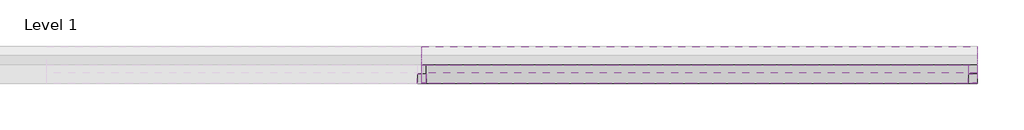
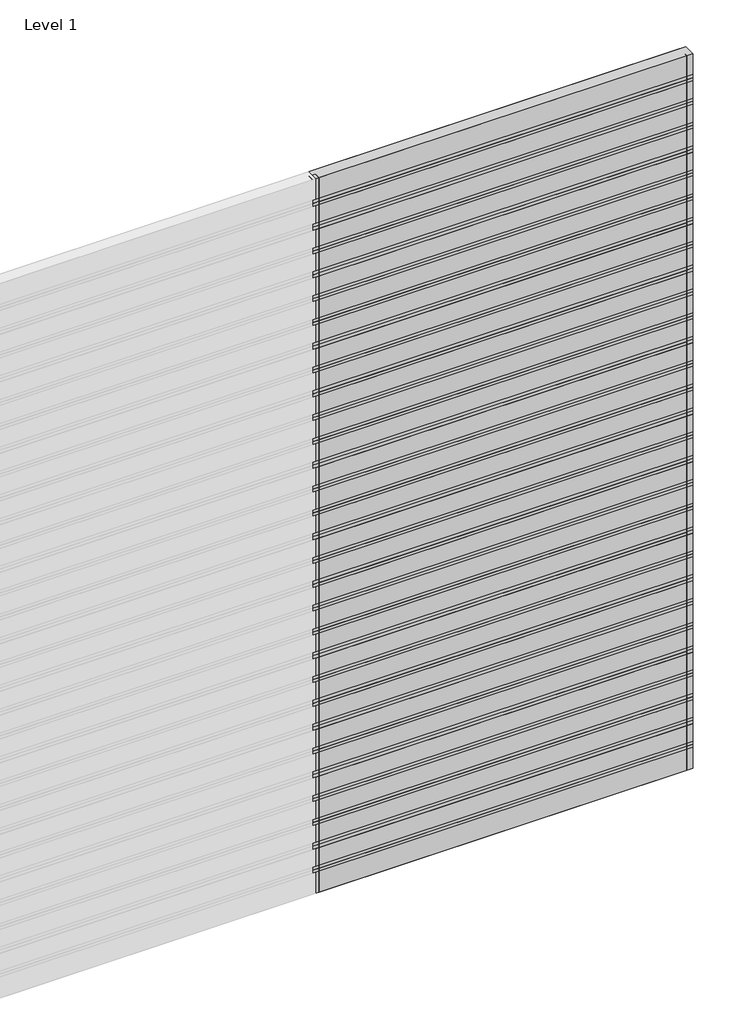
# One storey, part 2 of 2: 74 members, 60 plates.
"""IFC4 building model written with IfcOpenShell, lengths in millimetres."""

from ifc_helpers import new_model, si_unit, origin, place, context, project, spatial, transform, mapped, element, save
from components import rectangular_mullion_0c68277b, rectangular_mullion_7d91d70c, rectangular_mullion_614df7cf, empty_system_panel_empty_aee84036, empty_system_panel_empty_4cab923f, empty_system_panel_empty_34a2d59f

model = new_model("IFC4")

# Units and contexts
model_context = context("Model", 3, world=origin())
ifc_project = project(units=[si_unit("LENGTHUNIT", "METRE", prefix="MILLI")], contexts=[model_context])

# Site, building, storey
site = spatial("IfcSite", under=ifc_project)
building = spatial("IfcBuilding", under=site)
storey = spatial("IfcBuildingStorey", under=building, Name="Level 1", Elevation=0.0)

# Members
placement = place(None, origin())
rectangular_mullion_shape = rectangular_mullion_0c68277b(model_context)
element("IfcMember", 1, ObjectType="Rectangular Mullion : RSen_21_CWM_blade - 200 ellips - 45°_gen_duco projects", at=placement, inside=storey, context=model_context, shape_type="MappedRepresentation", body=[
    mapped(rectangular_mullion_shape, transform((3000.0, 3000.0, 3200.0), x_axis=(0.0, 0.0, 1.0), y_axis=(0.0, 1.0, 0.0), z_axis=(-1.0, 0.0, 0.0))),
])
element("IfcMember", 2, ObjectType="Rectangular Mullion : RSen_21_CWM_blade - 200 ellips - 45°_gen_duco projects", at=placement, inside=storey, context=model_context, shape_type="MappedRepresentation", body=[
    mapped(rectangular_mullion_shape, transform((3000.0, 3000.0, 3400.0), x_axis=(0.0, 0.0, 1.0), y_axis=(0.0, 1.0, 0.0), z_axis=(-1.0, 0.0, 0.0))),
])
element("IfcMember", 3, ObjectType="Rectangular Mullion : RSen_21_CWM_blade - 200 ellips - 45°_gen_duco projects", at=placement, inside=storey, context=model_context, shape_type="MappedRepresentation", body=[
    mapped(rectangular_mullion_shape, transform((3000.0, 3000.0, 3600.0), x_axis=(0.0, 0.0, 1.0), y_axis=(0.0, 1.0, 0.0), z_axis=(-1.0, 0.0, 0.0))),
])
element("IfcMember", 4, ObjectType="Rectangular Mullion : RSen_21_CWM_blade - 200 ellips - 45°_gen_duco projects", at=placement, inside=storey, context=model_context, shape_type="MappedRepresentation", body=[
    mapped(rectangular_mullion_shape, transform((3000.0, 3000.0, 3800.0), x_axis=(0.0, 0.0, 1.0), y_axis=(0.0, 1.0, 0.0), z_axis=(-1.0, 0.0, 0.0))),
])
element("IfcMember", 5, ObjectType="Rectangular Mullion : RSen_21_CWM_blade - 200 ellips - 45°_gen_duco projects", at=placement, inside=storey, context=model_context, shape_type="MappedRepresentation", body=[
    mapped(rectangular_mullion_shape, transform((3000.0, 3000.0, 4000.0), x_axis=(0.0, 0.0, 1.0), y_axis=(0.0, 1.0, 0.0), z_axis=(-1.0, 0.0, 0.0))),
])
element("IfcMember", 6, ObjectType="Rectangular Mullion : RSen_21_CWM_blade - 200 ellips - 45°_gen_duco projects", at=placement, inside=storey, context=model_context, shape_type="MappedRepresentation", body=[
    mapped(rectangular_mullion_shape, transform((3000.0, 3000.0, 4200.0), x_axis=(0.0, 0.0, 1.0), y_axis=(0.0, 1.0, 0.0), z_axis=(-1.0, 0.0, 0.0))),
])
element("IfcMember", 7, ObjectType="Rectangular Mullion : RSen_21_CWM_blade - 200 ellips - 45°_gen_duco projects", at=placement, inside=storey, context=model_context, shape_type="MappedRepresentation", body=[
    mapped(rectangular_mullion_shape, transform((3000.0, 3000.0, 4400.0), x_axis=(0.0, 0.0, 1.0), y_axis=(0.0, 1.0, 0.0), z_axis=(-1.0, 0.0, 0.0))),
])
element("IfcMember", 8, ObjectType="Rectangular Mullion : RSen_21_CWM_blade - 200 ellips - 45°_gen_duco projects", at=placement, inside=storey, context=model_context, shape_type="MappedRepresentation", body=[
    mapped(rectangular_mullion_shape, transform((3000.0, 3000.0, 4600.0), x_axis=(0.0, 0.0, 1.0), y_axis=(0.0, 1.0, 0.0), z_axis=(-1.0, 0.0, 0.0))),
])
element("IfcMember", 9, ObjectType="Rectangular Mullion : RSen_21_CWM_blade - 200 ellips - 45°_gen_duco projects", at=placement, inside=storey, context=model_context, shape_type="MappedRepresentation", body=[
    mapped(rectangular_mullion_shape, transform((3000.0, 3000.0, 4800.0), x_axis=(0.0, 0.0, 1.0), y_axis=(0.0, 1.0, 0.0), z_axis=(-1.0, 0.0, 0.0))),
])
element("IfcMember", 10, ObjectType="Rectangular Mullion : RSen_21_CWM_blade - 200 ellips - 45°_gen_duco projects", at=placement, inside=storey, context=model_context, shape_type="MappedRepresentation", body=[
    mapped(rectangular_mullion_shape, transform((3000.0, 3000.0, 5000.0), x_axis=(0.0, 0.0, 1.0), y_axis=(0.0, 1.0, 0.0), z_axis=(-1.0, 0.0, 0.0))),
])
element("IfcMember", 11, ObjectType="Rectangular Mullion : RSen_21_CWM_blade - 200 ellips - 45°_gen_duco projects", at=placement, inside=storey, context=model_context, shape_type="MappedRepresentation", body=[
    mapped(rectangular_mullion_shape, transform((3000.0, 3000.0, 5200.0), x_axis=(0.0, 0.0, 1.0), y_axis=(0.0, 1.0, 0.0), z_axis=(-1.0, 0.0, 0.0))),
])
element("IfcMember", 12, ObjectType="Rectangular Mullion : RSen_21_CWM_blade - 200 ellips - 45°_gen_duco projects", at=placement, inside=storey, context=model_context, shape_type="MappedRepresentation", body=[
    mapped(rectangular_mullion_shape, transform((3000.0, 3000.0, 5400.0), x_axis=(0.0, 0.0, 1.0), y_axis=(0.0, 1.0, 0.0), z_axis=(-1.0, 0.0, 0.0))),
])
element("IfcMember", 13, ObjectType="Rectangular Mullion : RSen_21_CWM_blade - 200 ellips - 45°_gen_duco projects", at=placement, inside=storey, context=model_context, shape_type="MappedRepresentation", body=[
    mapped(rectangular_mullion_shape, transform((3000.0, 3000.0, 5600.0), x_axis=(0.0, 0.0, 1.0), y_axis=(0.0, 1.0, 0.0), z_axis=(-1.0, 0.0, 0.0))),
])
element("IfcMember", 14, ObjectType="Rectangular Mullion : RSen_21_CWM_blade - 200 ellips - 45°_gen_duco projects", at=placement, inside=storey, context=model_context, shape_type="MappedRepresentation", body=[
    mapped(rectangular_mullion_shape, transform((3000.0, 3000.0, 5800.0), x_axis=(0.0, 0.0, 1.0), y_axis=(0.0, 1.0, 0.0), z_axis=(-1.0, 0.0, 0.0))),
])
rectangular_mullion_2_shape = rectangular_mullion_7d91d70c(model_context)
element("IfcMember", 15, ObjectType="Rectangular Mullion : RSen_21_CWM_support profile 50x50_gen_duco projects", at=placement, inside=storey, context=model_context, shape_type="MappedRepresentation", body=[
    mapped(rectangular_mullion_2_shape, transform((3000.0, 3000.0, 0.0), x_axis=(-1.0, 0.0, 0.0), y_axis=(0.0, 1.0, 0.0), z_axis=(0.0, 0.0, -1.0))),
])
element("IfcMember", 16, ObjectType="Rectangular Mullion : RSen_21_CWM_support profile 50x50_gen_duco projects", at=placement, inside=storey, context=model_context, shape_type="MappedRepresentation", body=[
    mapped(rectangular_mullion_2_shape, transform((3000.0, 3000.0, 200.0), x_axis=(-1.0, 0.0, 0.0), y_axis=(0.0, 1.0, 0.0), z_axis=(0.0, 0.0, -1.0))),
])
element("IfcMember", 17, ObjectType="Rectangular Mullion : RSen_21_CWM_support profile 50x50_gen_duco projects", at=placement, inside=storey, context=model_context, shape_type="MappedRepresentation", body=[
    mapped(rectangular_mullion_2_shape, transform((3000.0, 3000.0, 400.0), x_axis=(-1.0, 0.0, 0.0), y_axis=(0.0, 1.0, 0.0), z_axis=(0.0, 0.0, -1.0))),
])
element("IfcMember", 18, ObjectType="Rectangular Mullion : RSen_21_CWM_support profile 50x50_gen_duco projects", at=placement, inside=storey, context=model_context, shape_type="MappedRepresentation", body=[
    mapped(rectangular_mullion_2_shape, transform((3000.0, 3000.0, 600.0), x_axis=(-1.0, 0.0, 0.0), y_axis=(0.0, 1.0, 0.0), z_axis=(0.0, 0.0, -1.0))),
])
element("IfcMember", 19, ObjectType="Rectangular Mullion : RSen_21_CWM_support profile 50x50_gen_duco projects", at=placement, inside=storey, context=model_context, shape_type="MappedRepresentation", body=[
    mapped(rectangular_mullion_2_shape, transform((3000.0, 3000.0, 800.0), x_axis=(-1.0, 0.0, 0.0), y_axis=(0.0, 1.0, 0.0), z_axis=(0.0, 0.0, -1.0))),
])
element("IfcMember", 20, ObjectType="Rectangular Mullion : RSen_21_CWM_support profile 50x50_gen_duco projects", at=placement, inside=storey, context=model_context, shape_type="MappedRepresentation", body=[
    mapped(rectangular_mullion_2_shape, transform((3000.0, 3000.0, 1000.0), x_axis=(-1.0, 0.0, 0.0), y_axis=(0.0, 1.0, 0.0), z_axis=(0.0, 0.0, -1.0))),
])
element("IfcMember", 21, ObjectType="Rectangular Mullion : RSen_21_CWM_support profile 50x50_gen_duco projects", at=placement, inside=storey, context=model_context, shape_type="MappedRepresentation", body=[
    mapped(rectangular_mullion_2_shape, transform((3000.0, 3000.0, 1200.0), x_axis=(-1.0, 0.0, 0.0), y_axis=(0.0, 1.0, 0.0), z_axis=(0.0, 0.0, -1.0))),
])
element("IfcMember", 22, ObjectType="Rectangular Mullion : RSen_21_CWM_support profile 50x50_gen_duco projects", at=placement, inside=storey, context=model_context, shape_type="MappedRepresentation", body=[
    mapped(rectangular_mullion_2_shape, transform((3000.0, 3000.0, 1400.0), x_axis=(-1.0, 0.0, 0.0), y_axis=(0.0, 1.0, 0.0), z_axis=(0.0, 0.0, -1.0))),
])
element("IfcMember", 23, ObjectType="Rectangular Mullion : RSen_21_CWM_support profile 50x50_gen_duco projects", at=placement, inside=storey, context=model_context, shape_type="MappedRepresentation", body=[
    mapped(rectangular_mullion_2_shape, transform((3000.0, 3000.0, 1600.0), x_axis=(-1.0, 0.0, 0.0), y_axis=(0.0, 1.0, 0.0), z_axis=(0.0, 0.0, -1.0))),
])
element("IfcMember", 24, ObjectType="Rectangular Mullion : RSen_21_CWM_support profile 50x50_gen_duco projects", at=placement, inside=storey, context=model_context, shape_type="MappedRepresentation", body=[
    mapped(rectangular_mullion_2_shape, transform((3000.0, 3000.0, 1800.0), x_axis=(-1.0, 0.0, 0.0), y_axis=(0.0, 1.0, 0.0), z_axis=(0.0, 0.0, -1.0))),
])
element("IfcMember", 25, ObjectType="Rectangular Mullion : RSen_21_CWM_support profile 50x50_gen_duco projects", at=placement, inside=storey, context=model_context, shape_type="MappedRepresentation", body=[
    mapped(rectangular_mullion_2_shape, transform((3000.0, 3000.0, 2000.0), x_axis=(-1.0, 0.0, 0.0), y_axis=(0.0, 1.0, 0.0), z_axis=(0.0, 0.0, -1.0))),
])
element("IfcMember", 26, ObjectType="Rectangular Mullion : RSen_21_CWM_support profile 50x50_gen_duco projects", at=placement, inside=storey, context=model_context, shape_type="MappedRepresentation", body=[
    mapped(rectangular_mullion_2_shape, transform((3000.0, 3000.0, 2200.0), x_axis=(-1.0, 0.0, 0.0), y_axis=(0.0, 1.0, 0.0), z_axis=(0.0, 0.0, -1.0))),
])
element("IfcMember", 27, ObjectType="Rectangular Mullion : RSen_21_CWM_support profile 50x50_gen_duco projects", at=placement, inside=storey, context=model_context, shape_type="MappedRepresentation", body=[
    mapped(rectangular_mullion_2_shape, transform((3000.0, 3000.0, 2400.0), x_axis=(-1.0, 0.0, 0.0), y_axis=(0.0, 1.0, 0.0), z_axis=(0.0, 0.0, -1.0))),
])
element("IfcMember", 28, ObjectType="Rectangular Mullion : RSen_21_CWM_support profile 50x50_gen_duco projects", at=placement, inside=storey, context=model_context, shape_type="MappedRepresentation", body=[
    mapped(rectangular_mullion_2_shape, transform((3000.0, 3000.0, 2600.0), x_axis=(-1.0, 0.0, 0.0), y_axis=(0.0, 1.0, 0.0), z_axis=(0.0, 0.0, -1.0))),
])
element("IfcMember", 29, ObjectType="Rectangular Mullion : RSen_21_CWM_support profile 50x50_gen_duco projects", at=placement, inside=storey, context=model_context, shape_type="MappedRepresentation", body=[
    mapped(rectangular_mullion_2_shape, transform((3000.0, 3000.0, 2800.0), x_axis=(-1.0, 0.0, 0.0), y_axis=(0.0, 1.0, 0.0), z_axis=(0.0, 0.0, -1.0))),
])
element("IfcMember", 30, ObjectType="Rectangular Mullion : RSen_21_CWM_support profile 50x50_gen_duco projects", at=placement, inside=storey, context=model_context, shape_type="MappedRepresentation", body=[
    mapped(rectangular_mullion_2_shape, transform((3000.0, 3000.0, 3000.0), x_axis=(-1.0, 0.0, 0.0), y_axis=(0.0, 1.0, 0.0), z_axis=(0.0, 0.0, -1.0))),
])
element("IfcMember", 31, ObjectType="Rectangular Mullion : RSen_21_CWM_support profile 50x50_gen_duco projects", at=placement, inside=storey, context=model_context, shape_type="MappedRepresentation", body=[
    mapped(rectangular_mullion_2_shape, transform((3000.0, 3000.0, 3200.0), x_axis=(-1.0, 0.0, 0.0), y_axis=(0.0, 1.0, 0.0), z_axis=(0.0, 0.0, -1.0))),
])
element("IfcMember", 32, ObjectType="Rectangular Mullion : RSen_21_CWM_support profile 50x50_gen_duco projects", at=placement, inside=storey, context=model_context, shape_type="MappedRepresentation", body=[
    mapped(rectangular_mullion_2_shape, transform((3000.0, 3000.0, 3400.0), x_axis=(-1.0, 0.0, 0.0), y_axis=(0.0, 1.0, 0.0), z_axis=(0.0, 0.0, -1.0))),
])
element("IfcMember", 33, ObjectType="Rectangular Mullion : RSen_21_CWM_support profile 50x50_gen_duco projects", at=placement, inside=storey, context=model_context, shape_type="MappedRepresentation", body=[
    mapped(rectangular_mullion_2_shape, transform((3000.0, 3000.0, 3600.0), x_axis=(-1.0, 0.0, 0.0), y_axis=(0.0, 1.0, 0.0), z_axis=(0.0, 0.0, -1.0))),
])
element("IfcMember", 34, ObjectType="Rectangular Mullion : RSen_21_CWM_support profile 50x50_gen_duco projects", at=placement, inside=storey, context=model_context, shape_type="MappedRepresentation", body=[
    mapped(rectangular_mullion_2_shape, transform((3000.0, 3000.0, 3800.0), x_axis=(-1.0, 0.0, 0.0), y_axis=(0.0, 1.0, 0.0), z_axis=(0.0, 0.0, -1.0))),
])
element("IfcMember", 35, ObjectType="Rectangular Mullion : RSen_21_CWM_support profile 50x50_gen_duco projects", at=placement, inside=storey, context=model_context, shape_type="MappedRepresentation", body=[
    mapped(rectangular_mullion_2_shape, transform((3000.0, 3000.0, 4000.0), x_axis=(-1.0, 0.0, 0.0), y_axis=(0.0, 1.0, 0.0), z_axis=(0.0, 0.0, -1.0))),
])
element("IfcMember", 36, ObjectType="Rectangular Mullion : RSen_21_CWM_support profile 50x50_gen_duco projects", at=placement, inside=storey, context=model_context, shape_type="MappedRepresentation", body=[
    mapped(rectangular_mullion_2_shape, transform((3000.0, 3000.0, 4200.0), x_axis=(-1.0, 0.0, 0.0), y_axis=(0.0, 1.0, 0.0), z_axis=(0.0, 0.0, -1.0))),
])
element("IfcMember", 37, ObjectType="Rectangular Mullion : RSen_21_CWM_support profile 50x50_gen_duco projects", at=placement, inside=storey, context=model_context, shape_type="MappedRepresentation", body=[
    mapped(rectangular_mullion_2_shape, transform((3000.0, 3000.0, 4400.0), x_axis=(-1.0, 0.0, 0.0), y_axis=(0.0, 1.0, 0.0), z_axis=(0.0, 0.0, -1.0))),
])
element("IfcMember", 38, ObjectType="Rectangular Mullion : RSen_21_CWM_support profile 50x50_gen_duco projects", at=placement, inside=storey, context=model_context, shape_type="MappedRepresentation", body=[
    mapped(rectangular_mullion_2_shape, transform((3000.0, 3000.0, 4600.0), x_axis=(-1.0, 0.0, 0.0), y_axis=(0.0, 1.0, 0.0), z_axis=(0.0, 0.0, -1.0))),
])
element("IfcMember", 39, ObjectType="Rectangular Mullion : RSen_21_CWM_support profile 50x50_gen_duco projects", at=placement, inside=storey, context=model_context, shape_type="MappedRepresentation", body=[
    mapped(rectangular_mullion_2_shape, transform((3000.0, 3000.0, 4800.0), x_axis=(-1.0, 0.0, 0.0), y_axis=(0.0, 1.0, 0.0), z_axis=(0.0, 0.0, -1.0))),
])
element("IfcMember", 40, ObjectType="Rectangular Mullion : RSen_21_CWM_support profile 50x50_gen_duco projects", at=placement, inside=storey, context=model_context, shape_type="MappedRepresentation", body=[
    mapped(rectangular_mullion_2_shape, transform((3000.0, 3000.0, 5000.0), x_axis=(-1.0, 0.0, 0.0), y_axis=(0.0, 1.0, 0.0), z_axis=(0.0, 0.0, -1.0))),
])
element("IfcMember", 41, ObjectType="Rectangular Mullion : RSen_21_CWM_support profile 50x50_gen_duco projects", at=placement, inside=storey, context=model_context, shape_type="MappedRepresentation", body=[
    mapped(rectangular_mullion_2_shape, transform((3000.0, 3000.0, 5200.0), x_axis=(-1.0, 0.0, 0.0), y_axis=(0.0, 1.0, 0.0), z_axis=(0.0, 0.0, -1.0))),
])
element("IfcMember", 42, ObjectType="Rectangular Mullion : RSen_21_CWM_support profile 50x50_gen_duco projects", at=placement, inside=storey, context=model_context, shape_type="MappedRepresentation", body=[
    mapped(rectangular_mullion_2_shape, transform((3000.0, 3000.0, 5400.0), x_axis=(-1.0, 0.0, 0.0), y_axis=(0.0, 1.0, 0.0), z_axis=(0.0, 0.0, -1.0))),
])
element("IfcMember", 43, ObjectType="Rectangular Mullion : RSen_21_CWM_support profile 50x50_gen_duco projects", at=placement, inside=storey, context=model_context, shape_type="MappedRepresentation", body=[
    mapped(rectangular_mullion_2_shape, transform((3000.0, 3000.0, 5600.0), x_axis=(-1.0, 0.0, 0.0), y_axis=(0.0, 1.0, 0.0), z_axis=(0.0, 0.0, -1.0))),
])
element("IfcMember", 44, ObjectType="Rectangular Mullion : RSen_21_CWM_support profile 50x50_gen_duco projects", at=placement, inside=storey, context=model_context, shape_type="MappedRepresentation", body=[
    mapped(rectangular_mullion_2_shape, transform((3000.0, 3000.0, 5800.0), x_axis=(-1.0, 0.0, 0.0), y_axis=(0.0, 1.0, 0.0), z_axis=(0.0, 0.0, -1.0))),
])
rectangular_mullion_3_shape = rectangular_mullion_614df7cf(model_context)
element("IfcMember", 45, ObjectType="Rectangular Mullion : RSen_21_CWM_support profile 50x50 - right_gen_duco projects", at=placement, inside=storey, context=model_context, shape_type="MappedRepresentation", body=[
    mapped(rectangular_mullion_3_shape, transform((6000.0, 3000.0, 6000.0), x_axis=(1.0, 0.0, 0.0), y_axis=(0.0, 1.0, 0.0), z_axis=(0.0, 0.0, 1.0))),
])
element("IfcMember", 46, ObjectType="Rectangular Mullion : RSen_21_CWM_support profile 50x50 - right_gen_duco projects", at=placement, inside=storey, context=model_context, shape_type="MappedRepresentation", body=[
    mapped(rectangular_mullion_3_shape, transform((6000.0, 3000.0, 200.0), x_axis=(1.0, 0.0, 0.0), y_axis=(0.0, 1.0, 0.0), z_axis=(0.0, 0.0, 1.0))),
])
element("IfcMember", 47, ObjectType="Rectangular Mullion : RSen_21_CWM_support profile 50x50 - right_gen_duco projects", at=placement, inside=storey, context=model_context, shape_type="MappedRepresentation", body=[
    mapped(rectangular_mullion_3_shape, transform((6000.0, 3000.0, 400.0), x_axis=(1.0, 0.0, 0.0), y_axis=(0.0, 1.0, 0.0), z_axis=(0.0, 0.0, 1.0))),
])
element("IfcMember", 48, ObjectType="Rectangular Mullion : RSen_21_CWM_support profile 50x50 - right_gen_duco projects", at=placement, inside=storey, context=model_context, shape_type="MappedRepresentation", body=[
    mapped(rectangular_mullion_3_shape, transform((6000.0, 3000.0, 600.0), x_axis=(1.0, 0.0, 0.0), y_axis=(0.0, 1.0, 0.0), z_axis=(0.0, 0.0, 1.0))),
])
element("IfcMember", 49, ObjectType="Rectangular Mullion : RSen_21_CWM_support profile 50x50 - right_gen_duco projects", at=placement, inside=storey, context=model_context, shape_type="MappedRepresentation", body=[
    mapped(rectangular_mullion_3_shape, transform((6000.0, 3000.0, 800.0), x_axis=(1.0, 0.0, 0.0), y_axis=(0.0, 1.0, 0.0), z_axis=(0.0, 0.0, 1.0))),
])
element("IfcMember", 50, ObjectType="Rectangular Mullion : RSen_21_CWM_support profile 50x50 - right_gen_duco projects", at=placement, inside=storey, context=model_context, shape_type="MappedRepresentation", body=[
    mapped(rectangular_mullion_3_shape, transform((6000.0, 3000.0, 1000.0), x_axis=(1.0, 0.0, 0.0), y_axis=(0.0, 1.0, 0.0), z_axis=(0.0, 0.0, 1.0))),
])
element("IfcMember", 51, ObjectType="Rectangular Mullion : RSen_21_CWM_support profile 50x50 - right_gen_duco projects", at=placement, inside=storey, context=model_context, shape_type="MappedRepresentation", body=[
    mapped(rectangular_mullion_3_shape, transform((6000.0, 3000.0, 1200.0), x_axis=(1.0, 0.0, 0.0), y_axis=(0.0, 1.0, 0.0), z_axis=(0.0, 0.0, 1.0))),
])
element("IfcMember", 52, ObjectType="Rectangular Mullion : RSen_21_CWM_support profile 50x50 - right_gen_duco projects", at=placement, inside=storey, context=model_context, shape_type="MappedRepresentation", body=[
    mapped(rectangular_mullion_3_shape, transform((6000.0, 3000.0, 1400.0), x_axis=(1.0, 0.0, 0.0), y_axis=(0.0, 1.0, 0.0), z_axis=(0.0, 0.0, 1.0))),
])
element("IfcMember", 53, ObjectType="Rectangular Mullion : RSen_21_CWM_support profile 50x50 - right_gen_duco projects", at=placement, inside=storey, context=model_context, shape_type="MappedRepresentation", body=[
    mapped(rectangular_mullion_3_shape, transform((6000.0, 3000.0, 1600.0), x_axis=(1.0, 0.0, 0.0), y_axis=(0.0, 1.0, 0.0), z_axis=(0.0, 0.0, 1.0))),
])
element("IfcMember", 54, ObjectType="Rectangular Mullion : RSen_21_CWM_support profile 50x50 - right_gen_duco projects", at=placement, inside=storey, context=model_context, shape_type="MappedRepresentation", body=[
    mapped(rectangular_mullion_3_shape, transform((6000.0, 3000.0, 1800.0), x_axis=(1.0, 0.0, 0.0), y_axis=(0.0, 1.0, 0.0), z_axis=(0.0, 0.0, 1.0))),
])
element("IfcMember", 55, ObjectType="Rectangular Mullion : RSen_21_CWM_support profile 50x50 - right_gen_duco projects", at=placement, inside=storey, context=model_context, shape_type="MappedRepresentation", body=[
    mapped(rectangular_mullion_3_shape, transform((6000.0, 3000.0, 2000.0), x_axis=(1.0, 0.0, 0.0), y_axis=(0.0, 1.0, 0.0), z_axis=(0.0, 0.0, 1.0))),
])
element("IfcMember", 56, ObjectType="Rectangular Mullion : RSen_21_CWM_support profile 50x50 - right_gen_duco projects", at=placement, inside=storey, context=model_context, shape_type="MappedRepresentation", body=[
    mapped(rectangular_mullion_3_shape, transform((6000.0, 3000.0, 2200.0), x_axis=(1.0, 0.0, 0.0), y_axis=(0.0, 1.0, 0.0), z_axis=(0.0, 0.0, 1.0))),
])
element("IfcMember", 57, ObjectType="Rectangular Mullion : RSen_21_CWM_support profile 50x50 - right_gen_duco projects", at=placement, inside=storey, context=model_context, shape_type="MappedRepresentation", body=[
    mapped(rectangular_mullion_3_shape, transform((6000.0, 3000.0, 2400.0), x_axis=(1.0, 0.0, 0.0), y_axis=(0.0, 1.0, 0.0), z_axis=(0.0, 0.0, 1.0))),
])
element("IfcMember", 58, ObjectType="Rectangular Mullion : RSen_21_CWM_support profile 50x50 - right_gen_duco projects", at=placement, inside=storey, context=model_context, shape_type="MappedRepresentation", body=[
    mapped(rectangular_mullion_3_shape, transform((6000.0, 3000.0, 2600.0), x_axis=(1.0, 0.0, 0.0), y_axis=(0.0, 1.0, 0.0), z_axis=(0.0, 0.0, 1.0))),
])
element("IfcMember", 59, ObjectType="Rectangular Mullion : RSen_21_CWM_support profile 50x50 - right_gen_duco projects", at=placement, inside=storey, context=model_context, shape_type="MappedRepresentation", body=[
    mapped(rectangular_mullion_3_shape, transform((6000.0, 3000.0, 2800.0), x_axis=(1.0, 0.0, 0.0), y_axis=(0.0, 1.0, 0.0), z_axis=(0.0, 0.0, 1.0))),
])
element("IfcMember", 60, ObjectType="Rectangular Mullion : RSen_21_CWM_support profile 50x50 - right_gen_duco projects", at=placement, inside=storey, context=model_context, shape_type="MappedRepresentation", body=[
    mapped(rectangular_mullion_3_shape, transform((6000.0, 3000.0, 3000.0), x_axis=(1.0, 0.0, 0.0), y_axis=(0.0, 1.0, 0.0), z_axis=(0.0, 0.0, 1.0))),
])
element("IfcMember", 61, ObjectType="Rectangular Mullion : RSen_21_CWM_support profile 50x50 - right_gen_duco projects", at=placement, inside=storey, context=model_context, shape_type="MappedRepresentation", body=[
    mapped(rectangular_mullion_3_shape, transform((6000.0, 3000.0, 3200.0), x_axis=(1.0, 0.0, 0.0), y_axis=(0.0, 1.0, 0.0), z_axis=(0.0, 0.0, 1.0))),
])
element("IfcMember", 62, ObjectType="Rectangular Mullion : RSen_21_CWM_support profile 50x50 - right_gen_duco projects", at=placement, inside=storey, context=model_context, shape_type="MappedRepresentation", body=[
    mapped(rectangular_mullion_3_shape, transform((6000.0, 3000.0, 3400.0), x_axis=(1.0, 0.0, 0.0), y_axis=(0.0, 1.0, 0.0), z_axis=(0.0, 0.0, 1.0))),
])
element("IfcMember", 63, ObjectType="Rectangular Mullion : RSen_21_CWM_support profile 50x50 - right_gen_duco projects", at=placement, inside=storey, context=model_context, shape_type="MappedRepresentation", body=[
    mapped(rectangular_mullion_3_shape, transform((6000.0, 3000.0, 3600.0), x_axis=(1.0, 0.0, 0.0), y_axis=(0.0, 1.0, 0.0), z_axis=(0.0, 0.0, 1.0))),
])
element("IfcMember", 64, ObjectType="Rectangular Mullion : RSen_21_CWM_support profile 50x50 - right_gen_duco projects", at=placement, inside=storey, context=model_context, shape_type="MappedRepresentation", body=[
    mapped(rectangular_mullion_3_shape, transform((6000.0, 3000.0, 3800.0), x_axis=(1.0, 0.0, 0.0), y_axis=(0.0, 1.0, 0.0), z_axis=(0.0, 0.0, 1.0))),
])
element("IfcMember", 65, ObjectType="Rectangular Mullion : RSen_21_CWM_support profile 50x50 - right_gen_duco projects", at=placement, inside=storey, context=model_context, shape_type="MappedRepresentation", body=[
    mapped(rectangular_mullion_3_shape, transform((6000.0, 3000.0, 4000.0), x_axis=(1.0, 0.0, 0.0), y_axis=(0.0, 1.0, 0.0), z_axis=(0.0, 0.0, 1.0))),
])
element("IfcMember", 66, ObjectType="Rectangular Mullion : RSen_21_CWM_support profile 50x50 - right_gen_duco projects", at=placement, inside=storey, context=model_context, shape_type="MappedRepresentation", body=[
    mapped(rectangular_mullion_3_shape, transform((6000.0, 3000.0, 4200.0), x_axis=(1.0, 0.0, 0.0), y_axis=(0.0, 1.0, 0.0), z_axis=(0.0, 0.0, 1.0))),
])
element("IfcMember", 67, ObjectType="Rectangular Mullion : RSen_21_CWM_support profile 50x50 - right_gen_duco projects", at=placement, inside=storey, context=model_context, shape_type="MappedRepresentation", body=[
    mapped(rectangular_mullion_3_shape, transform((6000.0, 3000.0, 4400.0), x_axis=(1.0, 0.0, 0.0), y_axis=(0.0, 1.0, 0.0), z_axis=(0.0, 0.0, 1.0))),
])
element("IfcMember", 68, ObjectType="Rectangular Mullion : RSen_21_CWM_support profile 50x50 - right_gen_duco projects", at=placement, inside=storey, context=model_context, shape_type="MappedRepresentation", body=[
    mapped(rectangular_mullion_3_shape, transform((6000.0, 3000.0, 4600.0), x_axis=(1.0, 0.0, 0.0), y_axis=(0.0, 1.0, 0.0), z_axis=(0.0, 0.0, 1.0))),
])
element("IfcMember", 69, ObjectType="Rectangular Mullion : RSen_21_CWM_support profile 50x50 - right_gen_duco projects", at=placement, inside=storey, context=model_context, shape_type="MappedRepresentation", body=[
    mapped(rectangular_mullion_3_shape, transform((6000.0, 3000.0, 4800.0), x_axis=(1.0, 0.0, 0.0), y_axis=(0.0, 1.0, 0.0), z_axis=(0.0, 0.0, 1.0))),
])
element("IfcMember", 70, ObjectType="Rectangular Mullion : RSen_21_CWM_support profile 50x50 - right_gen_duco projects", at=placement, inside=storey, context=model_context, shape_type="MappedRepresentation", body=[
    mapped(rectangular_mullion_3_shape, transform((6000.0, 3000.0, 5000.0), x_axis=(1.0, 0.0, 0.0), y_axis=(0.0, 1.0, 0.0), z_axis=(0.0, 0.0, 1.0))),
])
element("IfcMember", 71, ObjectType="Rectangular Mullion : RSen_21_CWM_support profile 50x50 - right_gen_duco projects", at=placement, inside=storey, context=model_context, shape_type="MappedRepresentation", body=[
    mapped(rectangular_mullion_3_shape, transform((6000.0, 3000.0, 5200.0), x_axis=(1.0, 0.0, 0.0), y_axis=(0.0, 1.0, 0.0), z_axis=(0.0, 0.0, 1.0))),
])
element("IfcMember", 72, ObjectType="Rectangular Mullion : RSen_21_CWM_support profile 50x50 - right_gen_duco projects", at=placement, inside=storey, context=model_context, shape_type="MappedRepresentation", body=[
    mapped(rectangular_mullion_3_shape, transform((6000.0, 3000.0, 5400.0), x_axis=(1.0, 0.0, 0.0), y_axis=(0.0, 1.0, 0.0), z_axis=(0.0, 0.0, 1.0))),
])
element("IfcMember", 73, ObjectType="Rectangular Mullion : RSen_21_CWM_support profile 50x50 - right_gen_duco projects", at=placement, inside=storey, context=model_context, shape_type="MappedRepresentation", body=[
    mapped(rectangular_mullion_3_shape, transform((6000.0, 3000.0, 5600.0), x_axis=(1.0, 0.0, 0.0), y_axis=(0.0, 1.0, 0.0), z_axis=(0.0, 0.0, 1.0))),
])
element("IfcMember", 74, ObjectType="Rectangular Mullion : RSen_21_CWM_support profile 50x50 - right_gen_duco projects", at=placement, inside=storey, context=model_context, shape_type="MappedRepresentation", body=[
    mapped(rectangular_mullion_3_shape, transform((6000.0, 3000.0, 5800.0), x_axis=(1.0, 0.0, 0.0), y_axis=(0.0, 1.0, 0.0), z_axis=(0.0, 0.0, 1.0))),
])

# Plates
empty_system_panel_empty_shape = empty_system_panel_empty_aee84036(model_context)
element("IfcPlate", 75, ObjectType="Empty System Panel : Empty", at=placement, inside=storey, context=model_context, shape_type="MappedRepresentation", body=[
    mapped(empty_system_panel_empty_shape, transform((4500.0, 3000.0, 0.0), x_axis=(-1.0, 0.0, 0.0), y_axis=(0.0, -1.0, 0.0), z_axis=(0.0, 0.0, 1.0))),
])
element("IfcPlate", 76, ObjectType="Empty System Panel : Empty", at=placement, inside=storey, context=model_context, shape_type="MappedRepresentation", body=[
    mapped(empty_system_panel_empty_shape, transform((4500.0, 3000.0, 5826.1629509), x_axis=(-1.0, 0.0, 0.0), y_axis=(0.0, -1.0, 0.0), z_axis=(0.0, 0.0, 1.0))),
])
empty_system_panel_empty_2_shape = empty_system_panel_empty_4cab923f(model_context)
element("IfcPlate", 77, ObjectType="Empty System Panel : Empty", at=placement, inside=storey, context=model_context, shape_type="MappedRepresentation", body=[
    mapped(empty_system_panel_empty_2_shape, transform((4500.0, 3000.0, 226.1629509), x_axis=(-1.0, 0.0, 0.0), y_axis=(0.0, -1.0, 0.0), z_axis=(0.0, 0.0, 1.0))),
])
element("IfcPlate", 78, ObjectType="Empty System Panel : Empty", at=placement, inside=storey, context=model_context, shape_type="MappedRepresentation", body=[
    mapped(empty_system_panel_empty_2_shape, transform((4500.0, 3000.0, 426.1629509), x_axis=(-1.0, 0.0, 0.0), y_axis=(0.0, -1.0, 0.0), z_axis=(0.0, 0.0, 1.0))),
])
element("IfcPlate", 79, ObjectType="Empty System Panel : Empty", at=placement, inside=storey, context=model_context, shape_type="MappedRepresentation", body=[
    mapped(empty_system_panel_empty_2_shape, transform((4500.0, 3000.0, 626.1629509), x_axis=(-1.0, 0.0, 0.0), y_axis=(0.0, -1.0, 0.0), z_axis=(0.0, 0.0, 1.0))),
])
element("IfcPlate", 80, ObjectType="Empty System Panel : Empty", at=placement, inside=storey, context=model_context, shape_type="MappedRepresentation", body=[
    mapped(empty_system_panel_empty_2_shape, transform((4500.0, 3000.0, 826.1629509), x_axis=(-1.0, 0.0, 0.0), y_axis=(0.0, -1.0, 0.0), z_axis=(0.0, 0.0, 1.0))),
])
element("IfcPlate", 81, ObjectType="Empty System Panel : Empty", at=placement, inside=storey, context=model_context, shape_type="MappedRepresentation", body=[
    mapped(empty_system_panel_empty_2_shape, transform((4500.0, 3000.0, 1026.1629509), x_axis=(-1.0, 0.0, 0.0), y_axis=(0.0, -1.0, 0.0), z_axis=(0.0, 0.0, 1.0))),
])
element("IfcPlate", 82, ObjectType="Empty System Panel : Empty", at=placement, inside=storey, context=model_context, shape_type="MappedRepresentation", body=[
    mapped(empty_system_panel_empty_2_shape, transform((4500.0, 3000.0, 1226.1629509), x_axis=(-1.0, 0.0, 0.0), y_axis=(0.0, -1.0, 0.0), z_axis=(0.0, 0.0, 1.0))),
])
element("IfcPlate", 83, ObjectType="Empty System Panel : Empty", at=placement, inside=storey, context=model_context, shape_type="MappedRepresentation", body=[
    mapped(empty_system_panel_empty_2_shape, transform((4500.0, 3000.0, 1426.1629509), x_axis=(-1.0, 0.0, 0.0), y_axis=(0.0, -1.0, 0.0), z_axis=(0.0, 0.0, 1.0))),
])
element("IfcPlate", 84, ObjectType="Empty System Panel : Empty", at=placement, inside=storey, context=model_context, shape_type="MappedRepresentation", body=[
    mapped(empty_system_panel_empty_2_shape, transform((4500.0, 3000.0, 1626.1629509), x_axis=(-1.0, 0.0, 0.0), y_axis=(0.0, -1.0, 0.0), z_axis=(0.0, 0.0, 1.0))),
])
element("IfcPlate", 85, ObjectType="Empty System Panel : Empty", at=placement, inside=storey, context=model_context, shape_type="MappedRepresentation", body=[
    mapped(empty_system_panel_empty_2_shape, transform((4500.0, 3000.0, 1826.1629509), x_axis=(-1.0, 0.0, 0.0), y_axis=(0.0, -1.0, 0.0), z_axis=(0.0, 0.0, 1.0))),
])
element("IfcPlate", 86, ObjectType="Empty System Panel : Empty", at=placement, inside=storey, context=model_context, shape_type="MappedRepresentation", body=[
    mapped(empty_system_panel_empty_2_shape, transform((4500.0, 3000.0, 2026.1629509), x_axis=(-1.0, 0.0, 0.0), y_axis=(0.0, -1.0, 0.0), z_axis=(0.0, 0.0, 1.0))),
])
element("IfcPlate", 87, ObjectType="Empty System Panel : Empty", at=placement, inside=storey, context=model_context, shape_type="MappedRepresentation", body=[
    mapped(empty_system_panel_empty_2_shape, transform((4500.0, 3000.0, 2226.1629509), x_axis=(-1.0, 0.0, 0.0), y_axis=(0.0, -1.0, 0.0), z_axis=(0.0, 0.0, 1.0))),
])
element("IfcPlate", 88, ObjectType="Empty System Panel : Empty", at=placement, inside=storey, context=model_context, shape_type="MappedRepresentation", body=[
    mapped(empty_system_panel_empty_2_shape, transform((4500.0, 3000.0, 2426.1629509), x_axis=(-1.0, 0.0, 0.0), y_axis=(0.0, -1.0, 0.0), z_axis=(0.0, 0.0, 1.0))),
])
element("IfcPlate", 89, ObjectType="Empty System Panel : Empty", at=placement, inside=storey, context=model_context, shape_type="MappedRepresentation", body=[
    mapped(empty_system_panel_empty_2_shape, transform((4500.0, 3000.0, 2626.1629509), x_axis=(-1.0, 0.0, 0.0), y_axis=(0.0, -1.0, 0.0), z_axis=(0.0, 0.0, 1.0))),
])
element("IfcPlate", 90, ObjectType="Empty System Panel : Empty", at=placement, inside=storey, context=model_context, shape_type="MappedRepresentation", body=[
    mapped(empty_system_panel_empty_2_shape, transform((4500.0, 3000.0, 2826.1629509), x_axis=(-1.0, 0.0, 0.0), y_axis=(0.0, -1.0, 0.0), z_axis=(0.0, 0.0, 1.0))),
])
element("IfcPlate", 91, ObjectType="Empty System Panel : Empty", at=placement, inside=storey, context=model_context, shape_type="MappedRepresentation", body=[
    mapped(empty_system_panel_empty_2_shape, transform((4500.0, 3000.0, 3026.1629509), x_axis=(-1.0, 0.0, 0.0), y_axis=(0.0, -1.0, 0.0), z_axis=(0.0, 0.0, 1.0))),
])
element("IfcPlate", 92, ObjectType="Empty System Panel : Empty", at=placement, inside=storey, context=model_context, shape_type="MappedRepresentation", body=[
    mapped(empty_system_panel_empty_2_shape, transform((4500.0, 3000.0, 3226.1629509), x_axis=(-1.0, 0.0, 0.0), y_axis=(0.0, -1.0, 0.0), z_axis=(0.0, 0.0, 1.0))),
])
element("IfcPlate", 93, ObjectType="Empty System Panel : Empty", at=placement, inside=storey, context=model_context, shape_type="MappedRepresentation", body=[
    mapped(empty_system_panel_empty_2_shape, transform((4500.0, 3000.0, 3426.1629509), x_axis=(-1.0, 0.0, 0.0), y_axis=(0.0, -1.0, 0.0), z_axis=(0.0, 0.0, 1.0))),
])
element("IfcPlate", 94, ObjectType="Empty System Panel : Empty", at=placement, inside=storey, context=model_context, shape_type="MappedRepresentation", body=[
    mapped(empty_system_panel_empty_2_shape, transform((4500.0, 3000.0, 3626.1629509), x_axis=(-1.0, 0.0, 0.0), y_axis=(0.0, -1.0, 0.0), z_axis=(0.0, 0.0, 1.0))),
])
element("IfcPlate", 95, ObjectType="Empty System Panel : Empty", at=placement, inside=storey, context=model_context, shape_type="MappedRepresentation", body=[
    mapped(empty_system_panel_empty_2_shape, transform((4500.0, 3000.0, 3826.1629509), x_axis=(-1.0, 0.0, 0.0), y_axis=(0.0, -1.0, 0.0), z_axis=(0.0, 0.0, 1.0))),
])
element("IfcPlate", 96, ObjectType="Empty System Panel : Empty", at=placement, inside=storey, context=model_context, shape_type="MappedRepresentation", body=[
    mapped(empty_system_panel_empty_2_shape, transform((4500.0, 3000.0, 4026.1629509), x_axis=(-1.0, 0.0, 0.0), y_axis=(0.0, -1.0, 0.0), z_axis=(0.0, 0.0, 1.0))),
])
element("IfcPlate", 97, ObjectType="Empty System Panel : Empty", at=placement, inside=storey, context=model_context, shape_type="MappedRepresentation", body=[
    mapped(empty_system_panel_empty_2_shape, transform((4500.0, 3000.0, 4226.1629509), x_axis=(-1.0, 0.0, 0.0), y_axis=(0.0, -1.0, 0.0), z_axis=(0.0, 0.0, 1.0))),
])
element("IfcPlate", 98, ObjectType="Empty System Panel : Empty", at=placement, inside=storey, context=model_context, shape_type="MappedRepresentation", body=[
    mapped(empty_system_panel_empty_2_shape, transform((4500.0, 3000.0, 4426.1629509), x_axis=(-1.0, 0.0, 0.0), y_axis=(0.0, -1.0, 0.0), z_axis=(0.0, 0.0, 1.0))),
])
element("IfcPlate", 99, ObjectType="Empty System Panel : Empty", at=placement, inside=storey, context=model_context, shape_type="MappedRepresentation", body=[
    mapped(empty_system_panel_empty_2_shape, transform((4500.0, 3000.0, 4626.1629509), x_axis=(-1.0, 0.0, 0.0), y_axis=(0.0, -1.0, 0.0), z_axis=(0.0, 0.0, 1.0))),
])
element("IfcPlate", 100, ObjectType="Empty System Panel : Empty", at=placement, inside=storey, context=model_context, shape_type="MappedRepresentation", body=[
    mapped(empty_system_panel_empty_2_shape, transform((4500.0, 3000.0, 4826.1629509), x_axis=(-1.0, 0.0, 0.0), y_axis=(0.0, -1.0, 0.0), z_axis=(0.0, 0.0, 1.0))),
])
element("IfcPlate", 101, ObjectType="Empty System Panel : Empty", at=placement, inside=storey, context=model_context, shape_type="MappedRepresentation", body=[
    mapped(empty_system_panel_empty_2_shape, transform((4500.0, 3000.0, 5026.1629509), x_axis=(-1.0, 0.0, 0.0), y_axis=(0.0, -1.0, 0.0), z_axis=(0.0, 0.0, 1.0))),
])
element("IfcPlate", 102, ObjectType="Empty System Panel : Empty", at=placement, inside=storey, context=model_context, shape_type="MappedRepresentation", body=[
    mapped(empty_system_panel_empty_2_shape, transform((4500.0, 3000.0, 5226.1629509), x_axis=(-1.0, 0.0, 0.0), y_axis=(0.0, -1.0, 0.0), z_axis=(0.0, 0.0, 1.0))),
])
element("IfcPlate", 103, ObjectType="Empty System Panel : Empty", at=placement, inside=storey, context=model_context, shape_type="MappedRepresentation", body=[
    mapped(empty_system_panel_empty_2_shape, transform((4500.0, 3000.0, 5426.1629509), x_axis=(-1.0, 0.0, 0.0), y_axis=(0.0, -1.0, 0.0), z_axis=(0.0, 0.0, 1.0))),
])
element("IfcPlate", 104, ObjectType="Empty System Panel : Empty", at=placement, inside=storey, context=model_context, shape_type="MappedRepresentation", body=[
    mapped(empty_system_panel_empty_2_shape, transform((4500.0, 3000.0, 5626.1629509), x_axis=(-1.0, 0.0, 0.0), y_axis=(0.0, -1.0, 0.0), z_axis=(0.0, 0.0, 1.0))),
])
empty_system_panel_empty_3_shape = empty_system_panel_empty_34a2d59f(model_context)
element("IfcPlate", 105, ObjectType="Empty System Panel : Empty", at=placement, inside=storey, context=model_context, shape_type="MappedRepresentation", body=[
    mapped(empty_system_panel_empty_3_shape, transform((4487.5, 3000.0, 0.0), x_axis=(-1.0, 0.0, 0.0), y_axis=(0.0, -1.0, 0.0), z_axis=(0.0, 0.0, 1.0))),
])
element("IfcPlate", 106, ObjectType="Empty System Panel : Empty", at=placement, inside=storey, context=model_context, shape_type="MappedRepresentation", body=[
    mapped(empty_system_panel_empty_3_shape, transform((4487.5, 3000.0, 200.0), x_axis=(-1.0, 0.0, 0.0), y_axis=(0.0, -1.0, 0.0), z_axis=(0.0, 0.0, 1.0))),
])
element("IfcPlate", 107, ObjectType="Empty System Panel : Empty", at=placement, inside=storey, context=model_context, shape_type="MappedRepresentation", body=[
    mapped(empty_system_panel_empty_3_shape, transform((4487.5, 3000.0, 400.0), x_axis=(-1.0, 0.0, 0.0), y_axis=(0.0, -1.0, 0.0), z_axis=(0.0, 0.0, 1.0))),
])
element("IfcPlate", 108, ObjectType="Empty System Panel : Empty", at=placement, inside=storey, context=model_context, shape_type="MappedRepresentation", body=[
    mapped(empty_system_panel_empty_3_shape, transform((4487.5, 3000.0, 600.0), x_axis=(-1.0, 0.0, 0.0), y_axis=(0.0, -1.0, 0.0), z_axis=(0.0, 0.0, 1.0))),
])
element("IfcPlate", 109, ObjectType="Empty System Panel : Empty", at=placement, inside=storey, context=model_context, shape_type="MappedRepresentation", body=[
    mapped(empty_system_panel_empty_3_shape, transform((4487.5, 3000.0, 800.0), x_axis=(-1.0, 0.0, 0.0), y_axis=(0.0, -1.0, 0.0), z_axis=(0.0, 0.0, 1.0))),
])
element("IfcPlate", 110, ObjectType="Empty System Panel : Empty", at=placement, inside=storey, context=model_context, shape_type="MappedRepresentation", body=[
    mapped(empty_system_panel_empty_3_shape, transform((4487.5, 3000.0, 1000.0), x_axis=(-1.0, 0.0, 0.0), y_axis=(0.0, -1.0, 0.0), z_axis=(0.0, 0.0, 1.0))),
])
element("IfcPlate", 111, ObjectType="Empty System Panel : Empty", at=placement, inside=storey, context=model_context, shape_type="MappedRepresentation", body=[
    mapped(empty_system_panel_empty_3_shape, transform((4487.5, 3000.0, 1200.0), x_axis=(-1.0, 0.0, 0.0), y_axis=(0.0, -1.0, 0.0), z_axis=(0.0, 0.0, 1.0))),
])
element("IfcPlate", 112, ObjectType="Empty System Panel : Empty", at=placement, inside=storey, context=model_context, shape_type="MappedRepresentation", body=[
    mapped(empty_system_panel_empty_3_shape, transform((4487.5, 3000.0, 1400.0), x_axis=(-1.0, 0.0, 0.0), y_axis=(0.0, -1.0, 0.0), z_axis=(0.0, 0.0, 1.0))),
])
element("IfcPlate", 113, ObjectType="Empty System Panel : Empty", at=placement, inside=storey, context=model_context, shape_type="MappedRepresentation", body=[
    mapped(empty_system_panel_empty_3_shape, transform((4487.5, 3000.0, 1600.0), x_axis=(-1.0, 0.0, 0.0), y_axis=(0.0, -1.0, 0.0), z_axis=(0.0, 0.0, 1.0))),
])
element("IfcPlate", 114, ObjectType="Empty System Panel : Empty", at=placement, inside=storey, context=model_context, shape_type="MappedRepresentation", body=[
    mapped(empty_system_panel_empty_3_shape, transform((4487.5, 3000.0, 1800.0), x_axis=(-1.0, 0.0, 0.0), y_axis=(0.0, -1.0, 0.0), z_axis=(0.0, 0.0, 1.0))),
])
element("IfcPlate", 115, ObjectType="Empty System Panel : Empty", at=placement, inside=storey, context=model_context, shape_type="MappedRepresentation", body=[
    mapped(empty_system_panel_empty_3_shape, transform((4487.5, 3000.0, 2000.0), x_axis=(-1.0, 0.0, 0.0), y_axis=(0.0, -1.0, 0.0), z_axis=(0.0, 0.0, 1.0))),
])
element("IfcPlate", 116, ObjectType="Empty System Panel : Empty", at=placement, inside=storey, context=model_context, shape_type="MappedRepresentation", body=[
    mapped(empty_system_panel_empty_3_shape, transform((4487.5, 3000.0, 2200.0), x_axis=(-1.0, 0.0, 0.0), y_axis=(0.0, -1.0, 0.0), z_axis=(0.0, 0.0, 1.0))),
])
element("IfcPlate", 117, ObjectType="Empty System Panel : Empty", at=placement, inside=storey, context=model_context, shape_type="MappedRepresentation", body=[
    mapped(empty_system_panel_empty_3_shape, transform((4487.5, 3000.0, 2400.0), x_axis=(-1.0, 0.0, 0.0), y_axis=(0.0, -1.0, 0.0), z_axis=(0.0, 0.0, 1.0))),
])
element("IfcPlate", 118, ObjectType="Empty System Panel : Empty", at=placement, inside=storey, context=model_context, shape_type="MappedRepresentation", body=[
    mapped(empty_system_panel_empty_3_shape, transform((4487.5, 3000.0, 2600.0), x_axis=(-1.0, 0.0, 0.0), y_axis=(0.0, -1.0, 0.0), z_axis=(0.0, 0.0, 1.0))),
])
element("IfcPlate", 119, ObjectType="Empty System Panel : Empty", at=placement, inside=storey, context=model_context, shape_type="MappedRepresentation", body=[
    mapped(empty_system_panel_empty_3_shape, transform((4487.5, 3000.0, 2800.0), x_axis=(-1.0, 0.0, 0.0), y_axis=(0.0, -1.0, 0.0), z_axis=(0.0, 0.0, 1.0))),
])
element("IfcPlate", 120, ObjectType="Empty System Panel : Empty", at=placement, inside=storey, context=model_context, shape_type="MappedRepresentation", body=[
    mapped(empty_system_panel_empty_3_shape, transform((4487.5, 3000.0, 3000.0), x_axis=(-1.0, 0.0, 0.0), y_axis=(0.0, -1.0, 0.0), z_axis=(0.0, 0.0, 1.0))),
])
element("IfcPlate", 121, ObjectType="Empty System Panel : Empty", at=placement, inside=storey, context=model_context, shape_type="MappedRepresentation", body=[
    mapped(empty_system_panel_empty_3_shape, transform((4487.5, 3000.0, 3200.0), x_axis=(-1.0, 0.0, 0.0), y_axis=(0.0, -1.0, 0.0), z_axis=(0.0, 0.0, 1.0))),
])
element("IfcPlate", 122, ObjectType="Empty System Panel : Empty", at=placement, inside=storey, context=model_context, shape_type="MappedRepresentation", body=[
    mapped(empty_system_panel_empty_3_shape, transform((4487.5, 3000.0, 3400.0), x_axis=(-1.0, 0.0, 0.0), y_axis=(0.0, -1.0, 0.0), z_axis=(0.0, 0.0, 1.0))),
])
element("IfcPlate", 123, ObjectType="Empty System Panel : Empty", at=placement, inside=storey, context=model_context, shape_type="MappedRepresentation", body=[
    mapped(empty_system_panel_empty_3_shape, transform((4487.5, 3000.0, 3600.0), x_axis=(-1.0, 0.0, 0.0), y_axis=(0.0, -1.0, 0.0), z_axis=(0.0, 0.0, 1.0))),
])
element("IfcPlate", 124, ObjectType="Empty System Panel : Empty", at=placement, inside=storey, context=model_context, shape_type="MappedRepresentation", body=[
    mapped(empty_system_panel_empty_3_shape, transform((4487.5, 3000.0, 3800.0), x_axis=(-1.0, 0.0, 0.0), y_axis=(0.0, -1.0, 0.0), z_axis=(0.0, 0.0, 1.0))),
])
element("IfcPlate", 125, ObjectType="Empty System Panel : Empty", at=placement, inside=storey, context=model_context, shape_type="MappedRepresentation", body=[
    mapped(empty_system_panel_empty_3_shape, transform((4487.5, 3000.0, 4000.0), x_axis=(-1.0, 0.0, 0.0), y_axis=(0.0, -1.0, 0.0), z_axis=(0.0, 0.0, 1.0))),
])
element("IfcPlate", 126, ObjectType="Empty System Panel : Empty", at=placement, inside=storey, context=model_context, shape_type="MappedRepresentation", body=[
    mapped(empty_system_panel_empty_3_shape, transform((4487.5, 3000.0, 4200.0), x_axis=(-1.0, 0.0, 0.0), y_axis=(0.0, -1.0, 0.0), z_axis=(0.0, 0.0, 1.0))),
])
element("IfcPlate", 127, ObjectType="Empty System Panel : Empty", at=placement, inside=storey, context=model_context, shape_type="MappedRepresentation", body=[
    mapped(empty_system_panel_empty_3_shape, transform((4487.5, 3000.0, 4400.0), x_axis=(-1.0, 0.0, 0.0), y_axis=(0.0, -1.0, 0.0), z_axis=(0.0, 0.0, 1.0))),
])
element("IfcPlate", 128, ObjectType="Empty System Panel : Empty", at=placement, inside=storey, context=model_context, shape_type="MappedRepresentation", body=[
    mapped(empty_system_panel_empty_3_shape, transform((4487.5, 3000.0, 4600.0), x_axis=(-1.0, 0.0, 0.0), y_axis=(0.0, -1.0, 0.0), z_axis=(0.0, 0.0, 1.0))),
])
element("IfcPlate", 129, ObjectType="Empty System Panel : Empty", at=placement, inside=storey, context=model_context, shape_type="MappedRepresentation", body=[
    mapped(empty_system_panel_empty_3_shape, transform((4487.5, 3000.0, 4800.0), x_axis=(-1.0, 0.0, 0.0), y_axis=(0.0, -1.0, 0.0), z_axis=(0.0, 0.0, 1.0))),
])
element("IfcPlate", 130, ObjectType="Empty System Panel : Empty", at=placement, inside=storey, context=model_context, shape_type="MappedRepresentation", body=[
    mapped(empty_system_panel_empty_3_shape, transform((4487.5, 3000.0, 5000.0), x_axis=(-1.0, 0.0, 0.0), y_axis=(0.0, -1.0, 0.0), z_axis=(0.0, 0.0, 1.0))),
])
element("IfcPlate", 131, ObjectType="Empty System Panel : Empty", at=placement, inside=storey, context=model_context, shape_type="MappedRepresentation", body=[
    mapped(empty_system_panel_empty_3_shape, transform((4487.5, 3000.0, 5200.0), x_axis=(-1.0, 0.0, 0.0), y_axis=(0.0, -1.0, 0.0), z_axis=(0.0, 0.0, 1.0))),
])
element("IfcPlate", 132, ObjectType="Empty System Panel : Empty", at=placement, inside=storey, context=model_context, shape_type="MappedRepresentation", body=[
    mapped(empty_system_panel_empty_3_shape, transform((4487.5, 3000.0, 5400.0), x_axis=(-1.0, 0.0, 0.0), y_axis=(0.0, -1.0, 0.0), z_axis=(0.0, 0.0, 1.0))),
])
element("IfcPlate", 133, ObjectType="Empty System Panel : Empty", at=placement, inside=storey, context=model_context, shape_type="MappedRepresentation", body=[
    mapped(empty_system_panel_empty_3_shape, transform((4487.5, 3000.0, 5600.0), x_axis=(-1.0, 0.0, 0.0), y_axis=(0.0, -1.0, 0.0), z_axis=(0.0, 0.0, 1.0))),
])
element("IfcPlate", 134, ObjectType="Empty System Panel : Empty", at=placement, inside=storey, context=model_context, shape_type="MappedRepresentation", body=[
    mapped(empty_system_panel_empty_3_shape, transform((4487.5, 3000.0, 5800.0), x_axis=(-1.0, 0.0, 0.0), y_axis=(0.0, -1.0, 0.0), z_axis=(0.0, 0.0, 1.0))),
])

save(model, "model.ifc")
